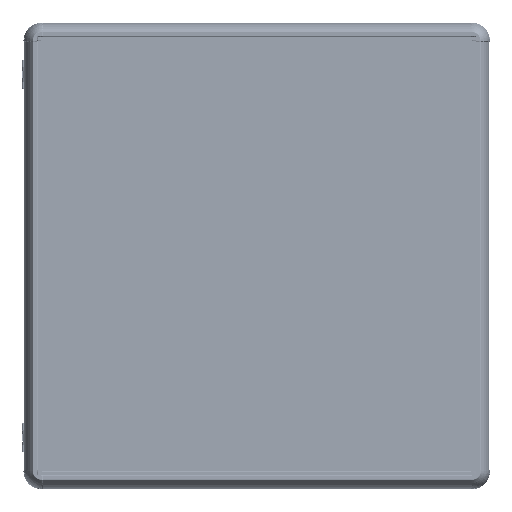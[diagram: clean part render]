
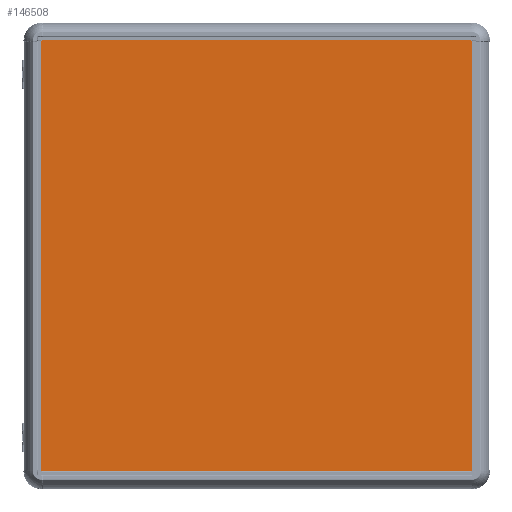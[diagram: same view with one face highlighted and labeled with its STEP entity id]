
A CAD part, top view. The second image highlights one B-rep face of the part: STEP entity #146508.
In plain terms, the highlighted planar face has unit normal (0, 0, 1).
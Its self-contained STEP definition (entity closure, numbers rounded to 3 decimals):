
#96 = DIRECTION ( 'NONE',  ( 0., 1., 0. ) ) ;
#3577 = VERTEX_POINT ( 'NONE', #9398 ) ;
#5936 = VERTEX_POINT ( 'NONE', #111064 ) ;
#8399 = CARTESIAN_POINT ( 'NONE',  ( -300., -300., 2. ) ) ;
#9398 = CARTESIAN_POINT ( 'NONE',  ( 300., 300., 2. ) ) ;
#18601 = CARTESIAN_POINT ( 'NONE',  ( -300., 300., 2. ) ) ;
#49545 = LINE ( 'NONE', #183329, #205382 ) ;
#50619 = FACE_OUTER_BOUND ( 'NONE', #67371, .T. ) ;
#51502 = EDGE_CURVE ( 'NONE', #98090, #5936, #151935, .T. ) ;
#51899 = VECTOR ( 'NONE', #99421, 1000. ) ;
#67067 = DIRECTION ( 'NONE',  ( -1., 0., 0. ) ) ;
#67371 = EDGE_LOOP ( 'NONE', ( #96593, #164817, #96063, #134740 ) ) ;
#68142 = DIRECTION ( 'NONE',  ( 1., 0., 0. ) ) ;
#71302 = LINE ( 'NONE', #18601, #93007 ) ;
#71550 = CARTESIAN_POINT ( 'NONE',  ( -300., -300., 2. ) ) ;
#93007 = VECTOR ( 'NONE', #170061, 1000. ) ;
#96063 = ORIENTED_EDGE ( 'NONE', *, *, #174484, .T. ) ;
#96593 = ORIENTED_EDGE ( 'NONE', *, *, #173290, .T. ) ;
#98090 = VERTEX_POINT ( 'NONE', #8399 ) ;
#99421 = DIRECTION ( 'NONE',  ( 1., 0., 0. ) ) ;
#103849 = EDGE_CURVE ( 'NONE', #3577, #184189, #49545, .T. ) ;
#104397 = CARTESIAN_POINT ( 'NONE',  ( 0., 0., 2. ) ) ;
#111064 = CARTESIAN_POINT ( 'NONE',  ( 300., -300., 2. ) ) ;
#120884 = PLANE ( 'NONE',  #169864 ) ;
#128022 = VECTOR ( 'NONE', #96, 1000. ) ;
#134740 = ORIENTED_EDGE ( 'NONE', *, *, #51502, .T. ) ;
#139228 = CARTESIAN_POINT ( 'NONE',  ( -300., 300., 2. ) ) ;
#146508 = ADVANCED_FACE ( 'NONE', ( #50619 ), #120884, .T. ) ;
#151935 = LINE ( 'NONE', #71550, #51899 ) ;
#164817 = ORIENTED_EDGE ( 'NONE', *, *, #103849, .T. ) ;
#166845 = CARTESIAN_POINT ( 'NONE',  ( 300., 300., 2. ) ) ;
#169864 = AXIS2_PLACEMENT_3D ( 'NONE', #104397, #171214, #68142 ) ;
#170061 = DIRECTION ( 'NONE',  ( 0., -1., 0. ) ) ;
#171214 = DIRECTION ( 'NONE',  ( 0., 0., 1. ) ) ;
#173290 = EDGE_CURVE ( 'NONE', #5936, #3577, #187546, .T. ) ;
#174484 = EDGE_CURVE ( 'NONE', #184189, #98090, #71302, .T. ) ;
#183329 = CARTESIAN_POINT ( 'NONE',  ( -300., 300., 2. ) ) ;
#184189 = VERTEX_POINT ( 'NONE', #139228 ) ;
#187546 = LINE ( 'NONE', #166845, #128022 ) ;
#205382 = VECTOR ( 'NONE', #67067, 1000. ) ;
